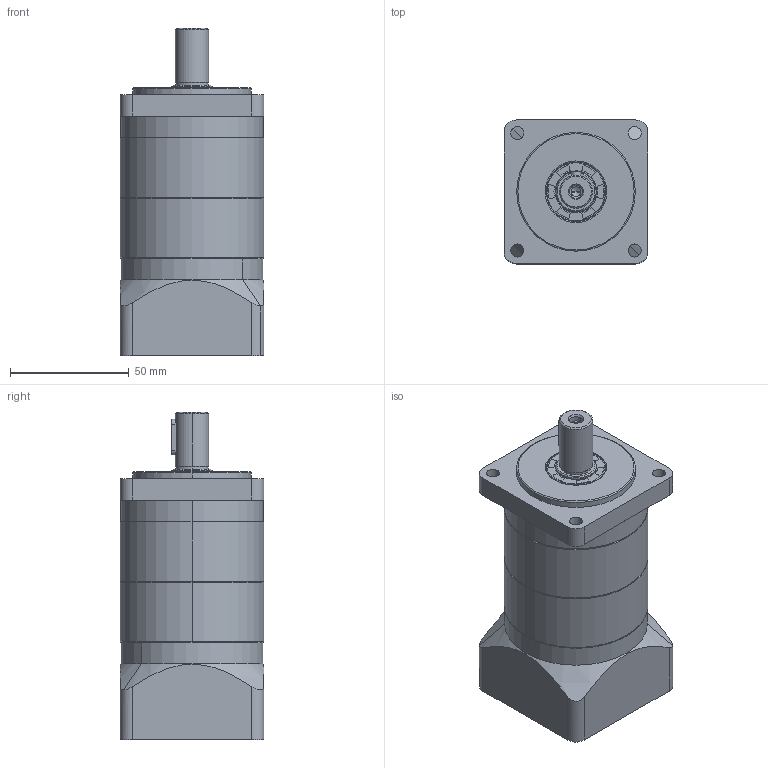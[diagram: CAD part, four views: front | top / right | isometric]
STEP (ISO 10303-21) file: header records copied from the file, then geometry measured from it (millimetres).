
FILE_DESCRIPTION (( 'STEP AP203' ), '1' );
FILE_NAME ('SB60-L2(6.35-38.1-66.67-M4).STEP', '2022-03-12T17:39:26', ( '' ), ( '' ), 'SwSTEP 2.0', 'SolidWorks 2016', '' );
FILE_SCHEMA (( 'CONFIG_CONTROL_DESIGN' ));
Length unit declared in the file: millimetre
Products named in the file (9): SN60; 60-(o14-6.35x17); SN60-17x25x4; SB60-(50x3-70-5.5)-; SB60-L2(6.35-38.1-66.67-M4); SN60-34x20x10.5-M5; SN60-(14); SN60-(14x24-4x15); SN60-(38.1-66.67-M4)
Assembly tree (9 placements, depth 2):
  SB60-L2(6.35-38.1-66.67-M4)
    SB60-(50x3-70-5.5)-
    SN60-17x25x4
    SN60-(14x24-4x15)
    SN60  x2
    SN60-(38.1-66.67-M4)
    SN60-(14)
    SN60-34x20x10.5-M5
    60-(o14-6.35x17)
Bounding box: 60.5 x 60.5 x 138 mm (x, y, z)
Volume: 335630.6 mm3; surface area: 78969.3 mm2
Topology: 12 solids, 12 shells, 441 faces, 1113 edges, 706 vertices
Faces by surface type: cylinder 222, plane 112, cone 58, bspline 39, torus 10
Entity records: 32212 total; most frequent: CARTESIAN_POINT 21521, ORIENTED_EDGE 2114, DIRECTION 1966, EDGE_CURVE 1057, AXIS2_PLACEMENT_3D 776, VERTEX_POINT 682, EDGE_LOOP 493, ADVANCED_FACE 425
